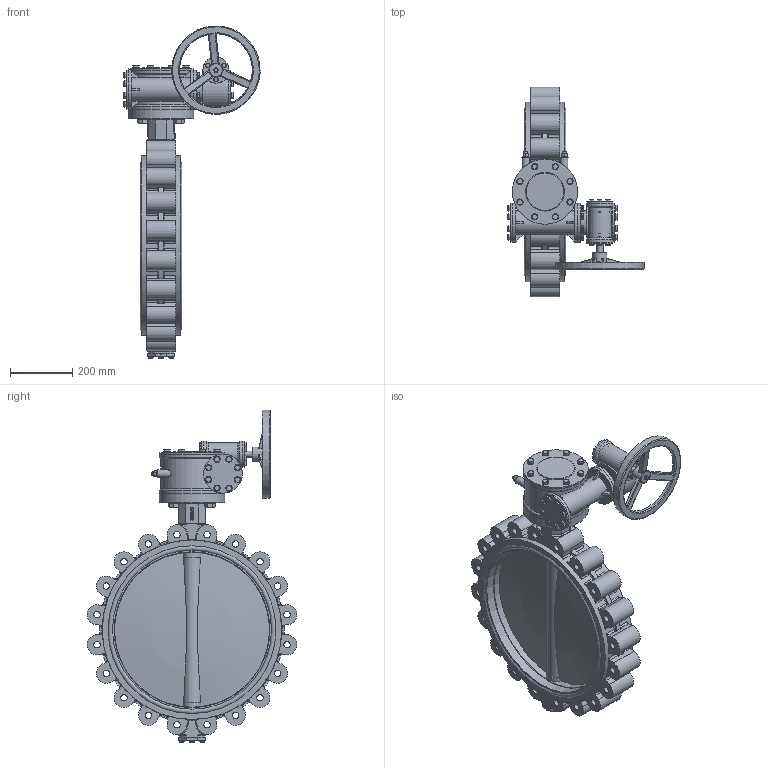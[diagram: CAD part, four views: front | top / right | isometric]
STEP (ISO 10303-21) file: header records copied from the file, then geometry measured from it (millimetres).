
FILE_DESCRIPTION(('STEP AP242'), '1');
FILE_NAME('Ïîâîðîòíûé çàòâîð ïîä ýëåêòðîïðèâîä', '', ('UNSPECIFIED'), ('UNSPECIFIED'), 'C3D Converter', 'C3D Toolkit', '');
FILE_SCHEMA(('AP242_MANAGED_MODEL_BASED_3D_ENGINEERING_MIM_LF { 1 0 10303 442 1 1 4 }'));
Length unit declared in the file: millimetre
Products named in the file (29): П; ШМ.М12.30
Assembly tree (130 placements, depth 3):
  (unnamed)
    (unnamed)
    П  x2
    (unnamed)
    (unnamed)
    (unnamed)
    (unnamed)
    (unnamed)  x4
    (unnamed)
      (unnamed)
      (unnamed)
      (unnamed)  x2
      (unnamed)
      (unnamed)
      (unnamed)
      (unnamed)
      (unnamed)
      (unnamed)  x2
      (unnamed)  x2
      (unnamed)  x32
      (unnamed)  x16
      (unnamed)  x8
      (unnamed)  x8
      ШМ.М12.30  x8
      (unnamed)  x12
      (unnamed)  x12
      (unnamed)
    (unnamed)  x4
    (unnamed)  x4
Bounding box: 438.66 x 676.36 x 1070.16 mm (x, y, z)
Volume: 29475887.4 mm3; surface area: 3159602.5 mm2
Topology: 129 solids, 129 shells, 2180 faces, 4902 edges, 3107 vertices
Faces by surface type: plane 1041, cylinder 583, torus 186, cone 171, extrusion 143, bspline 52, sphere 4
Full cylindrical faces by diameter (mm): 6 x2, 8 x40, 8.4 x12, 10 x12, 10.647 x10, 12 x100, 12.564 x1, 13 x32, 15 x12, 16 x8, 20 x40, 20.752 x20, 21 x4, 22 x8, 24 x2, 34 x4, 45 x1, 46 x5, 50.6 x1, 60.325 x4, 65.054 x5, 76 x2, 84 x4, 121 x1, 126 x6, 200 x1, 210 x4, 235 x1, 245 x1, 275 x1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
Entity records: 59097 total; most frequent: CARTESIAN_POINT 23565, DIRECTION 6011, ORIENTED_EDGE 5848, EDGE_CURVE 2924, AXIS2_PLACEMENT_3D 2347, VERTEX_POINT 2022, EDGE_LOOP 1834, FACE_BOUND 1371
